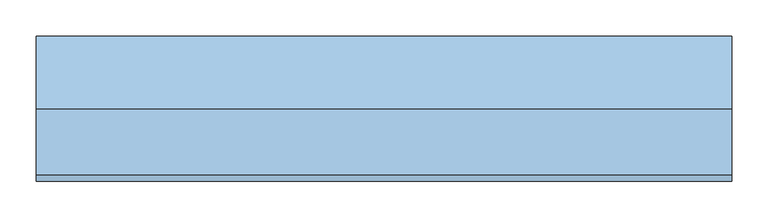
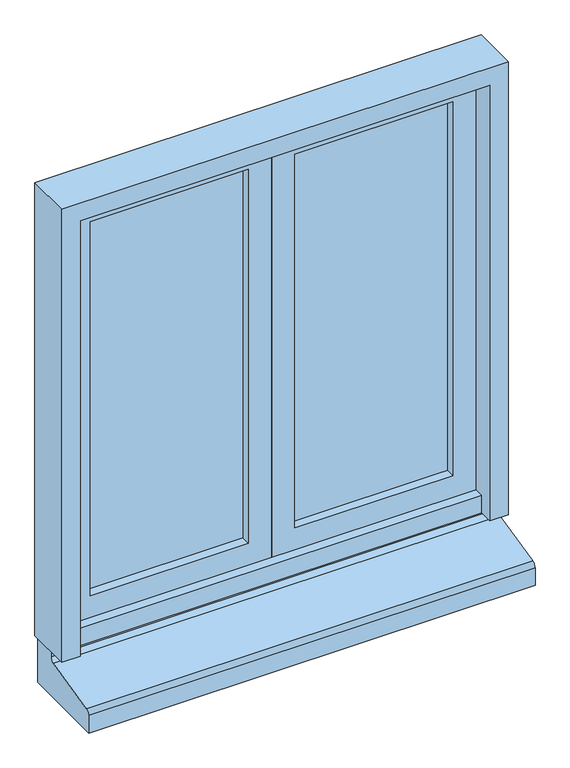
"""IFC4 building model written with IfcOpenShell, lengths in millimetres: window geometry, PF Rect. 2 vantaux : 100*100."""

import ifcopenshell
import ifcopenshell.guid

model = None  # the IFC model being written
_history = None  # IfcOwnerHistory: only IFC2X3 demands one
_inside = {}  # id of a spatial element -> (the spatial element, [elements in it])
_under = {}  # id of a project, library or spatial element -> (it, [spatial elements below it])
_declared = {}  # id of a project -> (the project, [libraries it declares])
_typed = {}  # id of a type object -> (the type object, [elements of that type])
_made_of = {}  # id of a material, layer set ... -> (it, [elements and type objects made of it])


def new_model(schema):
    """Start an empty IFC model of exactly this schema.

    Asked for "IFC4X3", IfcOpenShell would pick the latest addendum, in which some entities
    have other attributes; the version numbers below select the first issue.
    IFC2X3 requires an IfcOwnerHistory on every rooted entity: one is made here for all.
    """
    global model, _history
    if schema == "IFC4X3":
        model = ifcopenshell.file(schema_version=(4, 3, 0, 0))
    else:
        model = ifcopenshell.file(schema=schema)
    _inside.clear()
    _under.clear()
    _declared.clear()
    _typed.clear()
    _made_of.clear()
    _history = None
    if model.schema == "IFC2X3":
        org = make("IfcOrganization", Name="unknown")
        user = make(
            "IfcPersonAndOrganization",
            ThePerson=make("IfcPerson", FamilyName="unknown"),
            TheOrganization=org,
        )
        app = make(
            "IfcApplication",
            ApplicationDeveloper=org,
            Version="unknown",
            ApplicationFullName="unknown",
            ApplicationIdentifier="unknown",
        )
        _history = make(
            "IfcOwnerHistory",
            OwningUser=user,
            OwningApplication=app,
            ChangeAction="ADDED",
            CreationDate=0,
        )
    return model


def make(cls, **values):
    """One entity of the class cls with the attributes given. An attribute that is None is left unset."""
    return model.create_entity(
        cls, **{name: value for name, value in values.items() if value is not None}
    )


def rooted(cls, **values):
    """An entity with a GlobalId (a new one), such as an element, a storey or a relation."""
    return make(cls, GlobalId=ifcopenshell.guid.new(), OwnerHistory=_history, **values)


def si_unit(unit_type, name, prefix=None):
    """IfcSIUnit, for example si_unit("LENGTHUNIT", "METRE", prefix="MILLI")."""
    return make("IfcSIUnit", UnitType=unit_type, Prefix=prefix, Name=name)


def assignment(units):
    """IfcUnitAssignment: the units of a project."""
    return None if units is None else make("IfcUnitAssignment", Units=units)


def point(xyz):
    """IfcCartesianPoint."""
    return None if xyz is None else make("IfcCartesianPoint", Coordinates=xyz)


def direction(xyz):
    """IfcDirection."""
    return None if xyz is None else make("IfcDirection", DirectionRatios=xyz)


def frame(location, z_axis=None, x_axis=None):
    """IfcAxis2Placement3D, a coordinate frame: its origin and axes. An axis left out is left unset."""
    return make(
        "IfcAxis2Placement3D",
        Location=point(location),
        Axis=direction(z_axis),
        RefDirection=direction(x_axis),
    )


def frame_2d(location, x_axis=None):
    """IfcAxis2Placement2D, a coordinate frame in the plane: its origin and x axis."""
    return make(
        "IfcAxis2Placement2D", Location=point(location), RefDirection=direction(x_axis)
    )


def origin():
    """The frame at (0, 0, 0) with its axes left unset."""
    return frame((0.0, 0.0, 0.0))


def place(relative_to, where):
    """IfcLocalPlacement: puts the frame where relative to a parent placement (None: the world)."""
    return make(
        "IfcLocalPlacement", PlacementRelTo=relative_to, RelativePlacement=where
    )


def context(
    kind, dimensions, precision=None, world=None, true_north=None, identifier=None
):
    """IfcGeometricRepresentationContext, for example the 3D "Model" context."""
    return make(
        "IfcGeometricRepresentationContext",
        ContextIdentifier=identifier,
        ContextType=kind,
        CoordinateSpaceDimension=dimensions,
        Precision=precision,
        WorldCoordinateSystem=world,
        TrueNorth=true_north,
    )


def project(units=None, contexts=None):
    """IfcProject with its units and contexts."""
    return rooted(
        "IfcProject",
        Name="project",
        RepresentationContexts=contexts,
        UnitsInContext=assignment(units),
    )


def spatial(cls, under=None, at=None, **own):
    """A site, building, storey or space (cls), placed at a placement, below another one or the project."""
    s = rooted(cls, ObjectPlacement=at, **own)
    if under is not None:
        _under.setdefault(under.id(), (under, []))[1].append(s)
    return s


def polyline(points):
    """IfcPolyline through the points."""
    return make("IfcPolyline", Points=[point(p) for p in points])


def circle_curve(where, radius):
    """IfcCircle in the frame where."""
    return make("IfcCircle", Position=where, Radius=radius)


def trimmed(basis, trim1, trim2, sense, master):
    """IfcTrimmedCurve: the piece of a basis curve between two trims."""
    return make(
        "IfcTrimmedCurve",
        BasisCurve=basis,
        Trim1=trim1,
        Trim2=trim2,
        SenseAgreement=sense,
        MasterRepresentation=master,
    )


def segment(curve, same_sense, transition):
    """IfcCompositeCurveSegment."""
    return make(
        "IfcCompositeCurveSegment",
        Transition=transition,
        SameSense=same_sense,
        ParentCurve=curve,
    )


def composite_curve(segments, self_intersect=None):
    """IfcCompositeCurve: segments joined end to end."""
    return make("IfcCompositeCurve", Segments=segments, SelfIntersect=self_intersect)


def outline(outer, holes=None, kind="AREA"):
    """IfcArbitraryClosedProfileDef: a profile drawn as a closed curve; with holes, ...WithVoids."""
    if holes is None:
        return make("IfcArbitraryClosedProfileDef", ProfileType=kind, OuterCurve=outer)
    return make(
        "IfcArbitraryProfileDefWithVoids",
        ProfileType=kind,
        OuterCurve=outer,
        InnerCurves=holes,
    )


def extrude(swept, where, along, depth):
    """IfcExtrudedAreaSolid: the profile swept, set in the frame where, extruded along a direction by depth."""
    return make(
        "IfcExtrudedAreaSolid",
        SweptArea=swept,
        Position=where,
        ExtrudedDirection=direction(along),
        Depth=depth,
    )


def faces_of(points, faces, orient=None, outer=None):
    """IfcFace entities. A face is a list of loops; a loop is a list of indices into points, from 0.

    orient and outer hold one flag for each loop. By default every Orientation is true, the
    first loop of a face is its IfcFaceOuterBound and the others are IfcFaceBound.
    """
    made = []
    for i, loops in enumerate(faces):
        bounds = []
        for j, loop in enumerate(loops):
            is_outer = j == 0 if outer is None else outer[i][j]
            bounds.append(
                make(
                    "IfcFaceOuterBound" if is_outer else "IfcFaceBound",
                    Bound=make("IfcPolyLoop", Polygon=[points[k] for k in loop]),
                    Orientation=True if orient is None else orient[i][j],
                )
            )
        made.append(make("IfcFace", Bounds=bounds))
    return made


def faceted_brep(points, faces, orient=None, outer=None, voids=None):
    """IfcFacetedBrep: a solid bounded by flat faces; with voids (closed shells), ...WithVoids."""
    shared = [point(p) for p in points]
    hull = make("IfcClosedShell", CfsFaces=faces_of(shared, faces, orient, outer))
    if voids is None:
        return make("IfcFacetedBrep", Outer=hull)
    return make(
        "IfcFacetedBrepWithVoids",
        Outer=hull,
        Voids=[
            make(cls, CfsFaces=faces_of(shared, fs, o, b)) for cls, fs, o, b in voids
        ],
    )


def shape(context_of_items, identifier, shape_type, items):
    """IfcShapeRepresentation: the items that make up one representation, for example the "Body"."""
    return make(
        "IfcShapeRepresentation",
        ContextOfItems=context_of_items,
        RepresentationIdentifier=identifier,
        RepresentationType=shape_type,
        Items=items,
    )


def source(mapping_origin, context_of_items, identifier, shape_type, items):
    """IfcRepresentationMap: a shape defined once, which mapped items show again and again."""
    return make(
        "IfcRepresentationMap",
        MappingOrigin=mapping_origin,
        MappedRepresentation=shape(context_of_items, identifier, shape_type, items),
    )


def transform(
    local_origin,
    x_axis=None,
    y_axis=None,
    z_axis=None,
    scale=None,
    scale2=None,
    scale3=None,
    uniform=True,
):
    """IfcCartesianTransformationOperator3D, or its non-uniform kind. x_axis, y_axis, z_axis: its Axis1, 2, 3."""
    if uniform:
        return make(
            "IfcCartesianTransformationOperator3D",
            Axis1=direction(x_axis),
            Axis2=direction(y_axis),
            LocalOrigin=point(local_origin),
            Scale=scale,
            Axis3=direction(z_axis),
        )
    return make(
        "IfcCartesianTransformationOperator3DnonUniform",
        Axis1=direction(x_axis),
        Axis2=direction(y_axis),
        LocalOrigin=point(local_origin),
        Scale=scale,
        Axis3=direction(z_axis),
        Scale2=scale2,
        Scale3=scale3,
    )


def mapped(mapping_source, mapping_target):
    """IfcMappedItem: shows the shape of a source again, moved by a transform."""
    return make(
        "IfcMappedItem", MappingSource=mapping_source, MappingTarget=mapping_target
    )


def made_of(thing, what):
    """Note that an element or type object is made of a material, layer set ...; save() writes the relation."""
    if what is not None:
        _made_of.setdefault(what.id(), (what, []))[1].append(thing)
    return thing


def element(
    cls,
    number,
    at=None,
    inside=None,
    cuts=None,
    type_object=None,
    material=None,
    context=None,
    identifier="Body",
    shape_type=None,
    held_by="IfcProductDefinitionShape",
    body=None,
    shapes=None,
    **own,
):
    """One element of the class cls, such as IfcWall. Its Tag is "e" and its number.

    at: its placement. inside: the storey or other place that contains it. cuts: it is an
    opening in that element (IfcRelVoidsElement). A single representation is given by context,
    identifier, shape_type and body (its items); several are given by shapes. held_by: the class
    of the entity that holds the representations. save() writes the other relations.
    """
    e = rooted(cls, Tag="e%d" % number, ObjectPlacement=at, **own)
    if body is not None:
        shapes = [shape(context, identifier, shape_type, body)]
    if shapes is not None:
        e.Representation = make(held_by, Representations=shapes)
    if inside is not None:
        _inside.setdefault(inside.id(), (inside, []))[1].append(e)
    if cuts is not None:
        rooted(
            "IfcRelVoidsElement", RelatingBuildingElement=cuts, RelatedOpeningElement=e
        )
    if type_object is not None:
        _typed.setdefault(type_object.id(), (type_object, []))[1].append(e)
    return made_of(e, material)


def aggregate(whole, parts):
    """IfcRelAggregates: a whole, such as a stair, and the parts it consists of."""
    return rooted("IfcRelAggregates", RelatingObject=whole, RelatedObjects=parts)


def save(model, path):
    """Write the relations noted so far, then the file.

    IfcRelAggregates (storeys below a building ...), IfcRelContainedInSpatialStructure (elements
    in a storey), IfcRelDefinesByType, IfcRelAssociatesMaterial and IfcRelDeclares: one each for
    every whole, place, type object, material and project.
    """
    for whole, parts in _under.values():
        aggregate(whole, parts)
    for where, things in _inside.values():
        rooted(
            "IfcRelContainedInSpatialStructure",
            RelatedElements=things,
            RelatingStructure=where,
        )
    for kind, things in _typed.values():
        rooted("IfcRelDefinesByType", RelatedObjects=things, RelatingType=kind)
    for what, things in _made_of.values():
        rooted("IfcRelAssociatesMaterial", RelatedObjects=things, RelatingMaterial=what)
    for by, libraries in _declared.values():
        rooted("IfcRelDeclares", RelatingContext=by, RelatedDefinitions=libraries)
    model.write(path)


def window_5ec27e9f(model_context):
    return source(origin(), model_context, "Body", "SolidModel", [
        faceted_brep([(480.0, 75.0, 1130.0), (480.0, 75.0, 100.0), (-480.0, 75.0, 100.0), (-480.0, 75.0, 1130.0), (440.0, 75.0, 1090.0), (-440.0, 75.0, 1090.0), (-440.0, 75.0, 140.0), (440.0, 75.0, 140.0), (440.0, -25.0, 100.0), (480.0, -25.0, 100.0), (480.0, -25.0, 1130.0), (-480.0, -25.0, 1130.0), (-480.0, -25.0, 100.0), (-440.0, -25.0, 100.0), (-440.0, -25.0, 1090.0), (440.0, -25.0, 1090.0), (440.0, 5.0, 100.0), (-440.0, 5.0, 100.0), (-440.0, 5.0, 140.0), (440.0, 5.0, 140.0)], [[[0, 1, 2, 3], [4, 5, 6, 7]], [[8, 9, 10, 11, 12, 13, 14, 15]], [[1, 9, 8, 16, 17, 13, 12, 2]], [[1, 0, 10, 9]], [[3, 11, 10, 0]], [[11, 3, 2, 12]], [[13, 17, 18, 6, 5, 14]], [[4, 15, 14, 5]], [[15, 4, 7, 19, 16, 8]], [[6, 18, 19, 7]], [[16, 19, 18, 17]]]),
        extrude(outline(composite_curve([segment(polyline([(65.0, 100.0), (65.0, 0.0), (-125.0, 0.0), (-125.0, 40.1028492)]), True, "CONTINUOUS"), segment(trimmed(circle_curve(frame_2d((-115.0, 40.1028492)), 10.0), [point((-125.0, 40.1028492))], [point((-116.0597318, 50.0465391))], False, "CARTESIAN"), True, "CONTINUOUS"), segment(polyline([(-116.0597318, 50.0465391), (6.0597318, 79.0472062)]), True, "CONTINUOUS"), segment(trimmed(circle_curve(frame_2d((5.0, 88.9908961)), 10.0), [point((6.0597318, 79.0472062))], [point((15.0, 88.9908961))], True, "CARTESIAN"), True, "CONTINUOUS"), segment(polyline([(15.0, 88.9908961), (15.0, 100.0), (65.0, 100.0)]), True, "CONTINUOUS")], self_intersect=False)), frame((-480.0, 0.0, 0.0), z_axis=(1.0, 0.0, 0.0), x_axis=(0.0, 1.0, 0.0)), (0.0, 0.0, 1.0), 960.0),
        extrude(outline(polyline([(-50.0, 65.0), (-50.0, 45.0), (-390.0, 45.0), (-390.0, 65.0), (-50.0, 65.0)])), frame((0.0, 0.0, 190.0), z_axis=(0.0, 0.0, 1.0), x_axis=(1.0, 0.0, 0.0)), (0.0, 0.0, 1.0), 850.0),
        extrude(outline(polyline([(390.0, 65.0), (390.0, 45.0), (50.0, 45.0), (50.0, 65.0), (390.0, 65.0)])), frame((0.0, 0.0, 190.0), z_axis=(0.0, 0.0, 1.0), x_axis=(1.0, 0.0, 0.0)), (0.0, 0.0, 1.0), 850.0),
        extrude(outline(polyline([(1090.0, 440.0), (1090.0, 0.0), (140.0, 0.0), (140.0, 440.0), (1090.0, 440.0)]), holes=[polyline([(1040.0, 390.0), (190.0, 390.0), (190.0, 50.0), (1040.0, 50.0), (1040.0, 390.0)])]), frame((0.0, 25.0, 0.0), z_axis=(0.0, 1.0, 0.0), x_axis=(0.0, 0.0, 1.0)), (0.0, 0.0, 1.0), 50.0),
        extrude(outline(polyline([(1090.0, 0.0), (1090.0, -440.0), (140.0, -440.0), (140.0, 0.0), (1090.0, 0.0)]), holes=[polyline([(1040.0, -50.0), (190.0, -50.0), (190.0, -390.0), (1040.0, -390.0), (1040.0, -50.0)])]), frame((0.0, 25.0, 0.0), z_axis=(0.0, 1.0, 0.0), x_axis=(0.0, 0.0, 1.0)), (0.0, 0.0, 1.0), 50.0),
    ])


if __name__ == "__main__":
    model = new_model("IFC4")
    model_context = context("Model", 3, world=origin())
    ifc_project = project(units=[si_unit("LENGTHUNIT", "METRE", prefix="MILLI")], contexts=[model_context])
    site = spatial("IfcSite", under=ifc_project)
    building = spatial("IfcBuilding", under=site)
    placement = place(None, origin())
    window_shape = window_5ec27e9f(model_context)
    element("IfcWindow", 1, ObjectType="PF Rect. 2 vantaux : 100*100", at=placement, inside=building, context=model_context, shape_type="MappedRepresentation", body=[
        mapped(window_shape, transform((0.0, 0.0, 0.0), x_axis=(1.0, 0.0, 0.0), y_axis=(0.0, 1.0, 0.0), z_axis=(0.0, 0.0, 1.0))),
    ])
    save(model, "model.ifc")
